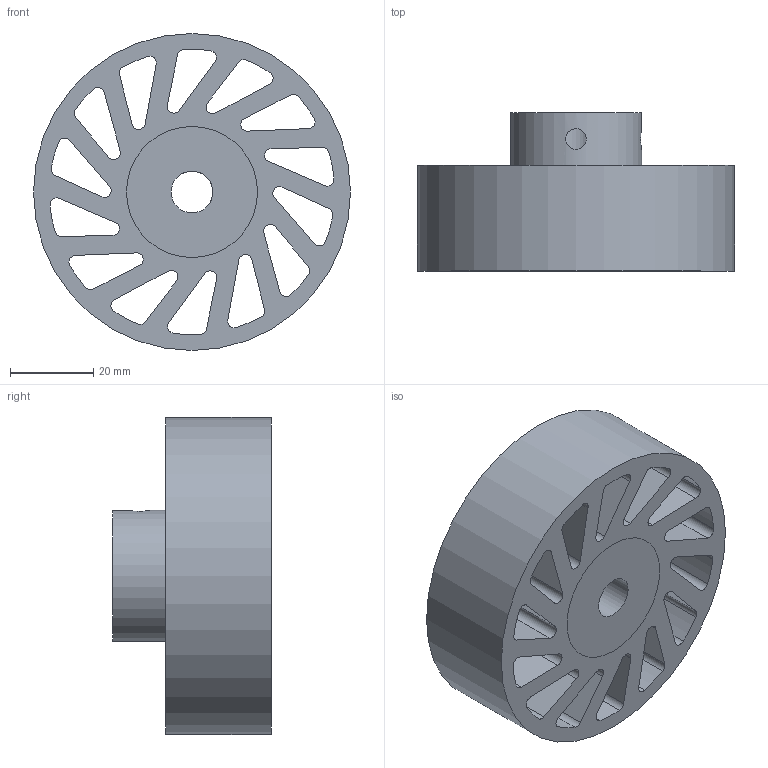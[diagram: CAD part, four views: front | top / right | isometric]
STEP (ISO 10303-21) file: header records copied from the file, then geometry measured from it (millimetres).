
FILE_DESCRIPTION(/* description */ (''),/* implementation_level */ '2;1');
FILE_NAME(/* name */ 'NCWM-640-XXX-YYY.stp',/* time_stamp */ '2023-02-02T16:14:47-06:00',/* author */ ('AG'),/* organization */ ('Meridian Laboratory'),/* preprocessor_version */ 'ST-DEVELOPER v18.1',/* originating_system */ 'Autodesk Inventor 2022',/* authorisation */ '');
FILE_SCHEMA (('AUTOMOTIVE_DESIGN { 1 0 10303 214 3 1 1 }','TECHNICAL_DATA_PACKAGING'));
Length unit declared in the file: millimetre
Products named in the file (1): NCWM-640
Bounding box: 76.2 x 38.1 x 76.2 mm (x, y, z)
Volume: 86959.3 mm3; surface area: 35384.2 mm2
Topology: 2 solids, 2 shells, 94 faces, 274 edges, 184 vertices
Faces by surface type: cylinder 62, plane 32
Full cylindrical faces by diameter (mm): 5 x2, 10.025 x1, 31.496 x2, 76.2 x1
Entity records: 3510 total; most frequent: CARTESIAN_POINT 689, DIRECTION 576, ORIENTED_EDGE 548, EDGE_CURVE 274, AXIS2_PLACEMENT_3D 215, VERTEX_POINT 184, LINE 146, VECTOR 146
